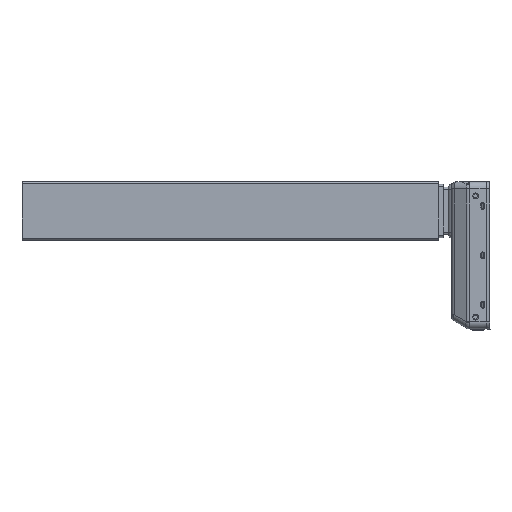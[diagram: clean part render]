
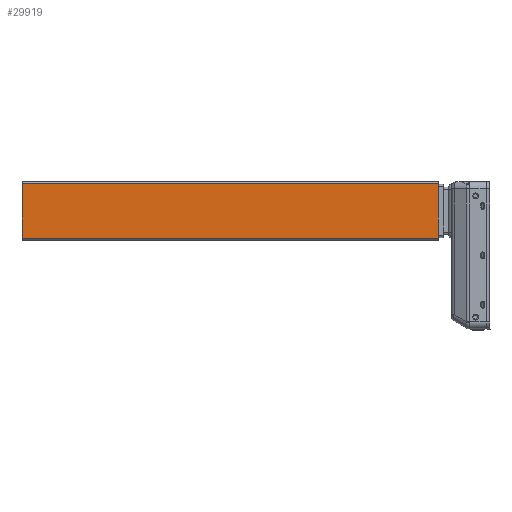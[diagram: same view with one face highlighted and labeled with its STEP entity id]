
A CAD part, left-side view. The second image highlights one B-rep face of the part: STEP entity #29919.
In plain terms, the highlighted planar face has unit normal (-1, 0, 0) as drawn and (0, 1, 0) by its records, which use the part's own axes.
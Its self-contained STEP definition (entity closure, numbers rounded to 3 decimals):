
#25644=DIRECTION('',(1.,0.,0.));
#25645=VECTOR('',#25644,65.);
#25646=CARTESIAN_POINT('',(-32.5,35.,0.));
#25647=LINE('',#25646,#25645);
#26118=DIRECTION('',(0.,0.,-1.));
#26119=VECTOR('',#26118,498.);
#26120=CARTESIAN_POINT('',(32.5,35.,0.));
#26121=LINE('',#26120,#26119);
#26122=DIRECTION('',(-1.,0.,0.));
#26123=VECTOR('',#26122,65.);
#26124=CARTESIAN_POINT('',(32.5,35.,-498.));
#26125=LINE('',#26124,#26123);
#26131=DIRECTION('',(0.,0.,1.));
#26132=VECTOR('',#26131,498.);
#26133=CARTESIAN_POINT('',(-32.5,35.,-498.));
#26134=LINE('',#26133,#26132);
#28108=CARTESIAN_POINT('',(-32.5,35.,0.));
#28109=VERTEX_POINT('',#28108);
#28110=CARTESIAN_POINT('',(32.5,35.,0.));
#28111=VERTEX_POINT('',#28110);
#28677=CARTESIAN_POINT('',(32.5,35.,-498.));
#28678=VERTEX_POINT('',#28677);
#28679=CARTESIAN_POINT('',(-32.5,35.,-498.));
#28680=VERTEX_POINT('',#28679);
#29907=CARTESIAN_POINT('',(35.,35.,0.));
#29908=DIRECTION('',(0.,1.,0.));
#29909=DIRECTION('',(-1.,0.,0.));
#29910=AXIS2_PLACEMENT_3D('',#29907,#29908,#29909);
#29911=PLANE('',#29910);
#29912=ORIENTED_EDGE('',*,*,#29861,.F.);
#29913=ORIENTED_EDGE('',*,*,#29902,.F.);
#29914=ORIENTED_EDGE('',*,*,#29169,.F.);
#29916=ORIENTED_EDGE('',*,*,#29915,.F.);
#29917=EDGE_LOOP('',(#29912,#29913,#29914,#29916));
#29918=FACE_OUTER_BOUND('',#29917,.F.);
#29169=EDGE_CURVE('',#28109,#28111,#25647,.T.);
#29861=EDGE_CURVE('',#28678,#28680,#26125,.T.);
#29902=EDGE_CURVE('',#28111,#28678,#26121,.T.);
#29915=EDGE_CURVE('',#28680,#28109,#26134,.T.);
#29919=ADVANCED_FACE('',(#29918),#29911,.T.);
